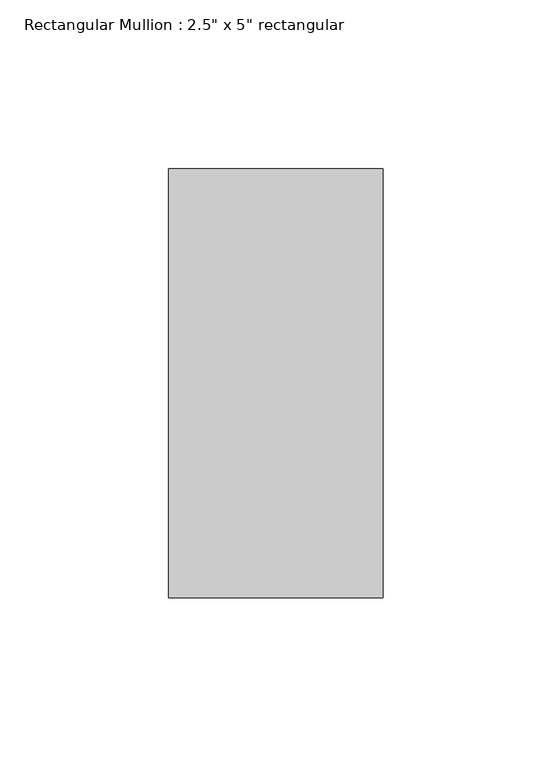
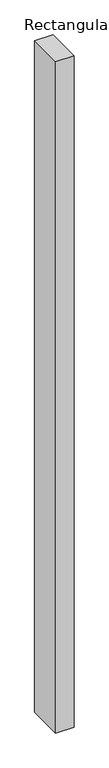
"""IFC4 building model written with IfcOpenShell, lengths in millimetres: member geometry."""

import ifcopenshell
import ifcopenshell.guid

model = None  # the IFC model being written
_history = None  # IfcOwnerHistory: only IFC2X3 demands one
_inside = {}  # id of a spatial element -> (the spatial element, [elements in it])
_under = {}  # id of a project, library or spatial element -> (it, [spatial elements below it])
_declared = {}  # id of a project -> (the project, [libraries it declares])
_typed = {}  # id of a type object -> (the type object, [elements of that type])
_made_of = {}  # id of a material, layer set ... -> (it, [elements and type objects made of it])


def new_model(schema):
    """Start an empty IFC model of exactly this schema.

    Asked for "IFC4X3", IfcOpenShell would pick the latest addendum, in which some entities
    have other attributes; the version numbers below select the first issue.
    IFC2X3 requires an IfcOwnerHistory on every rooted entity: one is made here for all.
    """
    global model, _history
    if schema == "IFC4X3":
        model = ifcopenshell.file(schema_version=(4, 3, 0, 0))
    else:
        model = ifcopenshell.file(schema=schema)
    _inside.clear()
    _under.clear()
    _declared.clear()
    _typed.clear()
    _made_of.clear()
    _history = None
    if model.schema == "IFC2X3":
        org = make("IfcOrganization", Name="unknown")
        user = make(
            "IfcPersonAndOrganization",
            ThePerson=make("IfcPerson", FamilyName="unknown"),
            TheOrganization=org,
        )
        app = make(
            "IfcApplication",
            ApplicationDeveloper=org,
            Version="unknown",
            ApplicationFullName="unknown",
            ApplicationIdentifier="unknown",
        )
        _history = make(
            "IfcOwnerHistory",
            OwningUser=user,
            OwningApplication=app,
            ChangeAction="ADDED",
            CreationDate=0,
        )
    return model


def make(cls, **values):
    """One entity of the class cls with the attributes given. An attribute that is None is left unset."""
    return model.create_entity(
        cls, **{name: value for name, value in values.items() if value is not None}
    )


def rooted(cls, **values):
    """An entity with a GlobalId (a new one), such as an element, a storey or a relation."""
    return make(cls, GlobalId=ifcopenshell.guid.new(), OwnerHistory=_history, **values)


def si_unit(unit_type, name, prefix=None):
    """IfcSIUnit, for example si_unit("LENGTHUNIT", "METRE", prefix="MILLI")."""
    return make("IfcSIUnit", UnitType=unit_type, Prefix=prefix, Name=name)


def assignment(units):
    """IfcUnitAssignment: the units of a project."""
    return None if units is None else make("IfcUnitAssignment", Units=units)


def point(xyz):
    """IfcCartesianPoint."""
    return None if xyz is None else make("IfcCartesianPoint", Coordinates=xyz)


def direction(xyz):
    """IfcDirection."""
    return None if xyz is None else make("IfcDirection", DirectionRatios=xyz)


def frame(location, z_axis=None, x_axis=None):
    """IfcAxis2Placement3D, a coordinate frame: its origin and axes. An axis left out is left unset."""
    return make(
        "IfcAxis2Placement3D",
        Location=point(location),
        Axis=direction(z_axis),
        RefDirection=direction(x_axis),
    )


def origin():
    """The frame at (0, 0, 0) with its axes left unset."""
    return frame((0.0, 0.0, 0.0))


def place(relative_to, where):
    """IfcLocalPlacement: puts the frame where relative to a parent placement (None: the world)."""
    return make(
        "IfcLocalPlacement", PlacementRelTo=relative_to, RelativePlacement=where
    )


def context(
    kind, dimensions, precision=None, world=None, true_north=None, identifier=None
):
    """IfcGeometricRepresentationContext, for example the 3D "Model" context."""
    return make(
        "IfcGeometricRepresentationContext",
        ContextIdentifier=identifier,
        ContextType=kind,
        CoordinateSpaceDimension=dimensions,
        Precision=precision,
        WorldCoordinateSystem=world,
        TrueNorth=true_north,
    )


def project(units=None, contexts=None):
    """IfcProject with its units and contexts."""
    return rooted(
        "IfcProject",
        Name="project",
        RepresentationContexts=contexts,
        UnitsInContext=assignment(units),
    )


def spatial(cls, under=None, at=None, **own):
    """A site, building, storey or space (cls), placed at a placement, below another one or the project."""
    s = rooted(cls, ObjectPlacement=at, **own)
    if under is not None:
        _under.setdefault(under.id(), (under, []))[1].append(s)
    return s


def polyline(points):
    """IfcPolyline through the points."""
    return make("IfcPolyline", Points=[point(p) for p in points])


def outline(outer, holes=None, kind="AREA"):
    """IfcArbitraryClosedProfileDef: a profile drawn as a closed curve; with holes, ...WithVoids."""
    if holes is None:
        return make("IfcArbitraryClosedProfileDef", ProfileType=kind, OuterCurve=outer)
    return make(
        "IfcArbitraryProfileDefWithVoids",
        ProfileType=kind,
        OuterCurve=outer,
        InnerCurves=holes,
    )


def extrude(swept, where, along, depth):
    """IfcExtrudedAreaSolid: the profile swept, set in the frame where, extruded along a direction by depth."""
    return make(
        "IfcExtrudedAreaSolid",
        SweptArea=swept,
        Position=where,
        ExtrudedDirection=direction(along),
        Depth=depth,
    )


def shape(context_of_items, identifier, shape_type, items):
    """IfcShapeRepresentation: the items that make up one representation, for example the "Body"."""
    return make(
        "IfcShapeRepresentation",
        ContextOfItems=context_of_items,
        RepresentationIdentifier=identifier,
        RepresentationType=shape_type,
        Items=items,
    )


def source(mapping_origin, context_of_items, identifier, shape_type, items):
    """IfcRepresentationMap: a shape defined once, which mapped items show again and again."""
    return make(
        "IfcRepresentationMap",
        MappingOrigin=mapping_origin,
        MappedRepresentation=shape(context_of_items, identifier, shape_type, items),
    )


def transform(
    local_origin,
    x_axis=None,
    y_axis=None,
    z_axis=None,
    scale=None,
    scale2=None,
    scale3=None,
    uniform=True,
):
    """IfcCartesianTransformationOperator3D, or its non-uniform kind. x_axis, y_axis, z_axis: its Axis1, 2, 3."""
    if uniform:
        return make(
            "IfcCartesianTransformationOperator3D",
            Axis1=direction(x_axis),
            Axis2=direction(y_axis),
            LocalOrigin=point(local_origin),
            Scale=scale,
            Axis3=direction(z_axis),
        )
    return make(
        "IfcCartesianTransformationOperator3DnonUniform",
        Axis1=direction(x_axis),
        Axis2=direction(y_axis),
        LocalOrigin=point(local_origin),
        Scale=scale,
        Axis3=direction(z_axis),
        Scale2=scale2,
        Scale3=scale3,
    )


def mapped(mapping_source, mapping_target):
    """IfcMappedItem: shows the shape of a source again, moved by a transform."""
    return make(
        "IfcMappedItem", MappingSource=mapping_source, MappingTarget=mapping_target
    )


def made_of(thing, what):
    """Note that an element or type object is made of a material, layer set ...; save() writes the relation."""
    if what is not None:
        _made_of.setdefault(what.id(), (what, []))[1].append(thing)
    return thing


def element(
    cls,
    number,
    at=None,
    inside=None,
    cuts=None,
    type_object=None,
    material=None,
    context=None,
    identifier="Body",
    shape_type=None,
    held_by="IfcProductDefinitionShape",
    body=None,
    shapes=None,
    **own,
):
    """One element of the class cls, such as IfcWall. Its Tag is "e" and its number.

    at: its placement. inside: the storey or other place that contains it. cuts: it is an
    opening in that element (IfcRelVoidsElement). A single representation is given by context,
    identifier, shape_type and body (its items); several are given by shapes. held_by: the class
    of the entity that holds the representations. save() writes the other relations.
    """
    e = rooted(cls, Tag="e%d" % number, ObjectPlacement=at, **own)
    if body is not None:
        shapes = [shape(context, identifier, shape_type, body)]
    if shapes is not None:
        e.Representation = make(held_by, Representations=shapes)
    if inside is not None:
        _inside.setdefault(inside.id(), (inside, []))[1].append(e)
    if cuts is not None:
        rooted(
            "IfcRelVoidsElement", RelatingBuildingElement=cuts, RelatedOpeningElement=e
        )
    if type_object is not None:
        _typed.setdefault(type_object.id(), (type_object, []))[1].append(e)
    return made_of(e, material)


def aggregate(whole, parts):
    """IfcRelAggregates: a whole, such as a stair, and the parts it consists of."""
    return rooted("IfcRelAggregates", RelatingObject=whole, RelatedObjects=parts)


def save(model, path):
    """Write the relations noted so far, then the file.

    IfcRelAggregates (storeys below a building ...), IfcRelContainedInSpatialStructure (elements
    in a storey), IfcRelDefinesByType, IfcRelAssociatesMaterial and IfcRelDeclares: one each for
    every whole, place, type object, material and project.
    """
    for whole, parts in _under.values():
        aggregate(whole, parts)
    for where, things in _inside.values():
        rooted(
            "IfcRelContainedInSpatialStructure",
            RelatedElements=things,
            RelatingStructure=where,
        )
    for kind, things in _typed.values():
        rooted("IfcRelDefinesByType", RelatedObjects=things, RelatingType=kind)
    for what, things in _made_of.values():
        rooted("IfcRelAssociatesMaterial", RelatedObjects=things, RelatingMaterial=what)
    for by, libraries in _declared.values():
        rooted("IfcRelDeclares", RelatingContext=by, RelatedDefinitions=libraries)
    model.write(path)


def member_9c76a069(model_context):
    return source(origin(), model_context, "Body", "SweptSolid", [
        extrude(outline(polyline([(31.75, 63.5), (31.75, -63.5), (-31.75, -63.5), (-31.75, 63.5), (31.75, 63.5)])), frame((0.0, 0.0, -2476.4999999), z_axis=(0.0, 0.0, 1.0), x_axis=(1.0, 0.0, 0.0)), (0.0, 0.0, 1.0), 2476.4999999),
    ])


if __name__ == "__main__":
    model = new_model("IFC4")
    model_context = context("Model", 3, world=origin())
    ifc_project = project(units=[si_unit("LENGTHUNIT", "METRE", prefix="MILLI")], contexts=[model_context])
    site = spatial("IfcSite", under=ifc_project)
    building = spatial("IfcBuilding", under=site)
    placement = place(None, origin())
    member_shape = member_9c76a069(model_context)
    element("IfcMember", 1, ObjectType="Rectangular Mullion : 2.5\" x 5\" rectangular", at=placement, inside=building, context=model_context, shape_type="MappedRepresentation", body=[
        mapped(member_shape, transform((0.0, 0.0, 0.0), x_axis=(1.0, 0.0, 0.0), y_axis=(0.0, 1.0, 0.0), z_axis=(0.0, 0.0, 1.0))),
    ])
    save(model, "model.ifc")
